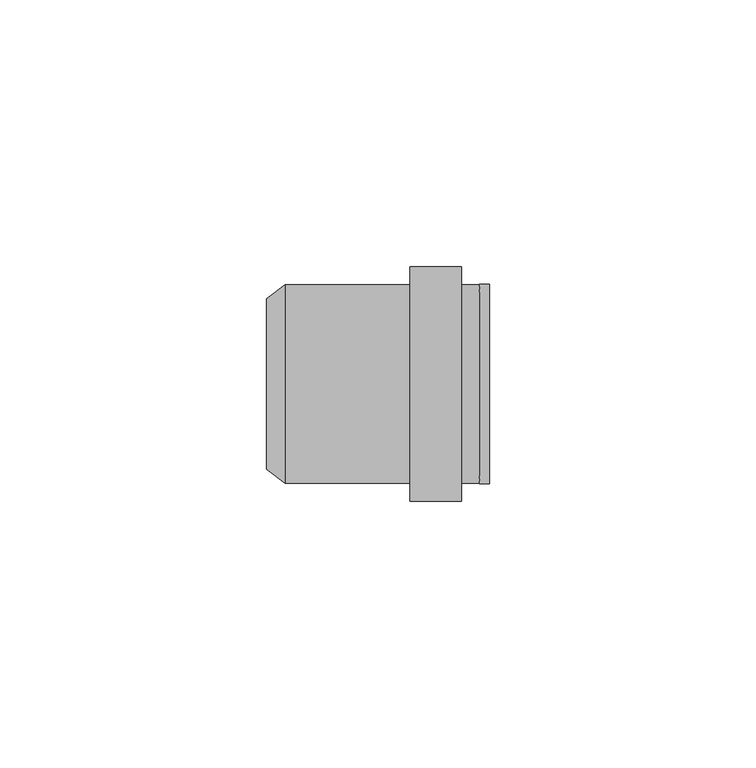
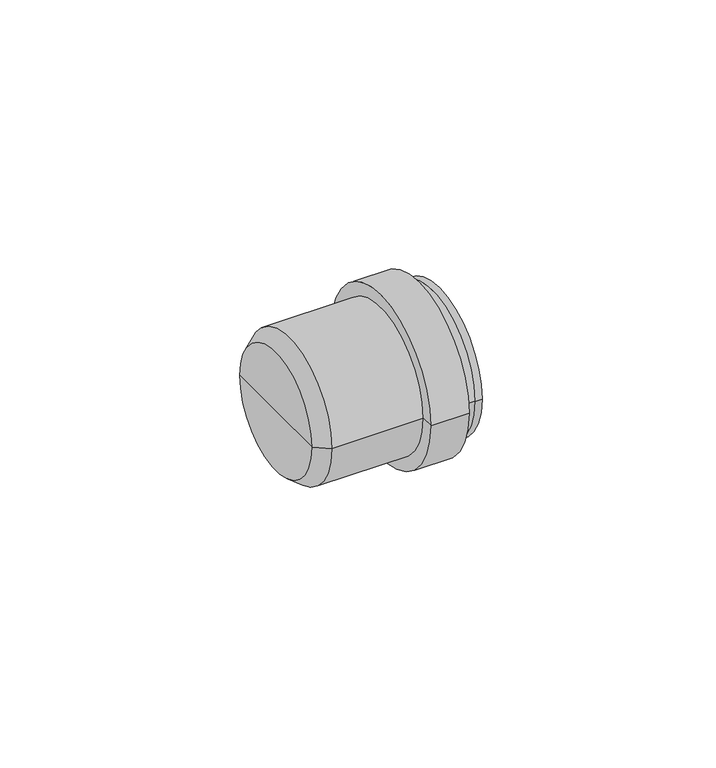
"""IFC4 building model written with IfcOpenShell, lengths in millimetres: pipe fitting geometry, pf_HTM_zatka : pf_HTM_zatka."""

from ifc_helpers import new_model, si_unit, frame, origin, place, context, project, spatial, polyline, circle_curve, source, transform, mapped, element, save
from ifc_brep_helpers import plane_surface, cylinder_surface, revolved_surface, advanced_brep


def pipe_fitting_0bfdb319(model_context):
    return source(origin(), model_context, "Body", "AdvancedBrep", [
        advanced_brep(
        [(-40.0, -16.0, 0.0), (-40.0, 16.0, 0.0), (-36.5, 18.6, 0.0), (-36.5, -18.6, 0.0), (-40.0, 0.0, 0.0), (0.0, -18.6, 0.0), (0.0, 18.6, 0.0), (0.0, 0.0, 0.0), (-3.4, -18.6, 0.0), (-3.4, 18.6, 0.0), (-3.4, -22.0, 0.0), (-3.4, 22.0, 0.0), (-13.1, -22.0, 0.0), (-13.1, 22.0, 0.0), (-13.1, -18.6, 0.0), (-13.1, 18.6, 0.0)],
        [
            (0, 1, circle_curve(frame((-40.0, 0.0, 0.0), z_axis=(1.0, 0.0, 0.0), x_axis=(0.0, 1.0, 0.0)), 16.0)),
            (1, 2),
            (2, 3, circle_curve(frame((-36.5, 0.0, 0.0), z_axis=(-1.0, 0.0, 0.0), x_axis=(0.0, 1.0, 0.0)), 18.6)),
            (3, 0),
            (1, 0, circle_curve(frame((-40.0, 0.0, 0.0), z_axis=(1.0, 0.0, 0.0), x_axis=(0.0, 1.0, 0.0)), 16.0)),
            (3, 2, circle_curve(frame((-36.5, 0.0, 0.0), z_axis=(-1.0, 0.0, 0.0), x_axis=(0.0, 1.0, 0.0)), 18.6)),
            (4, 1),
            (0, 4),
            (5, 6, circle_curve(frame((0.0, 0.0, 0.0), z_axis=(1.0, 0.0, 0.0), x_axis=(0.0, 1.0, 0.0)), 18.6)),
            (6, 7),
            (7, 5),
            (6, 5, circle_curve(frame((0.0, 0.0, 0.0), z_axis=(1.0, 0.0, 0.0), x_axis=(0.0, 1.0, 0.0)), 18.6)),
            (8, 9, circle_curve(frame((-3.4, 0.0, 0.0), z_axis=(1.0, 0.0, 0.0), x_axis=(0.0, 1.0, 0.0)), 18.6)),
            (9, 6),
            (5, 8),
            (9, 8, circle_curve(frame((-3.4, 0.0, 0.0), z_axis=(1.0, 0.0, 0.0), x_axis=(0.0, 1.0, 0.0)), 18.6)),
            (10, 11, circle_curve(frame((-3.4, 0.0, 0.0), z_axis=(1.0, 0.0, 0.0), x_axis=(0.0, 1.0, 0.0)), 22.0)),
            (11, 9),
            (8, 10),
            (11, 10, circle_curve(frame((-3.4, 0.0, 0.0), z_axis=(1.0, 0.0, 0.0), x_axis=(0.0, 1.0, 0.0)), 22.0)),
            (12, 13, circle_curve(frame((-13.1, 0.0, 0.0), z_axis=(1.0, 0.0, 0.0), x_axis=(0.0, 1.0, 0.0)), 22.0)),
            (13, 11),
            (10, 12),
            (13, 12, circle_curve(frame((-13.1, 0.0, 0.0), z_axis=(1.0, 0.0, 0.0), x_axis=(0.0, 1.0, 0.0)), 22.0)),
            (14, 15, circle_curve(frame((-13.1, 0.0, 0.0), z_axis=(1.0, 0.0, 0.0), x_axis=(0.0, 1.0, 0.0)), 18.6)),
            (15, 13),
            (12, 14),
            (15, 14, circle_curve(frame((-13.1, 0.0, 0.0), z_axis=(1.0, 0.0, 0.0), x_axis=(0.0, 1.0, 0.0)), 18.6)),
            (2, 15),
            (14, 3),
        ],
        [
            revolved_surface(polyline([(-36.5, 18.6, 0.0), (-40.0, 16.0, 0.0)]), (-40.0, 0.0, 0.0), (-1.0, 0.0, 0.0)),
            plane_surface(frame((-40.0, 0.0, 0.0), z_axis=(-1.0, 0.0, 0.0), x_axis=(0.0, 1.0, 0.0))),
            plane_surface(frame((0.0, 0.0, 0.0), z_axis=(1.0, 0.0, 0.0), x_axis=(0.0, 1.0, 0.0))),
            cylinder_surface(frame((-40.0, 0.0, 0.0), z_axis=(-1.0, 0.0, 0.0), x_axis=(0.0, 1.0, 0.0)), 18.6),
            plane_surface(frame((-3.4, 0.0, 0.0), z_axis=(1.0, 0.0, 0.0), x_axis=(0.0, 1.0, 0.0))),
            cylinder_surface(frame((-40.0, 0.0, 0.0), z_axis=(-1.0, 0.0, 0.0), x_axis=(0.0, 1.0, 0.0)), 22.0),
            plane_surface(frame((-13.1, 0.0, 0.0), z_axis=(-1.0, 0.0, 0.0), x_axis=(0.0, 1.0, 0.0))),
        ],
        [
            (0, [[1, 2, 3, 4]]),
            (0, [[5, -4, 6, -2]]),
            (1, [[7, -1, 8]]),
            (1, [[-8, -5, -7]]),
            (2, [[9, 10, 11]]),
            (2, [[12, -11, -10]]),
            (3, [[13, 14, -9, 15]]),
            (3, [[16, -15, -12, -14]]),
            (4, [[17, 18, -13, 19]]),
            (4, [[20, -19, -16, -18]]),
            (5, [[21, 22, -17, 23]]),
            (5, [[24, -23, -20, -22]]),
            (6, [[25, 26, -21, 27]]),
            (6, [[28, -27, -24, -26]]),
            (3, [[-3, 29, -25, 30]]),
            (3, [[-6, -30, -28, -29]]),
        ],
    ),
        advanced_brep(
        [(-37.0, 0.0, 0.0), (-37.0, 16.0, 0.0), (-37.0, -16.0, 0.0), (1.8, -18.74, 0.0), (1.8, 18.74, 0.0), (1.8, 0.0, 0.0), (0.0, -18.74, 0.0), (0.0, 18.74, 0.0), (0.0, -16.94, 0.0), (0.0, 16.94, 0.0), (-33.0, -16.94, 0.0), (-33.0, 16.94, 0.0)],
        [
            (0, 1),
            (1, 2, circle_curve(frame((-37.0, 0.0, 0.0), z_axis=(-1.0, 0.0, 0.0), x_axis=(0.0, 1.0, 0.0)), 16.0)),
            (2, 0),
            (2, 1, circle_curve(frame((-37.0, 0.0, 0.0), z_axis=(-1.0, 0.0, 0.0), x_axis=(0.0, 1.0, 0.0)), 16.0)),
            (3, 4, circle_curve(frame((1.8, 0.0, 0.0), z_axis=(1.0, 0.0, 0.0), x_axis=(0.0, 1.0, 0.0)), 18.74)),
            (4, 5),
            (5, 3),
            (4, 3, circle_curve(frame((1.8, 0.0, 0.0), z_axis=(1.0, 0.0, 0.0), x_axis=(0.0, 1.0, 0.0)), 18.74)),
            (6, 7, circle_curve(frame((0.0, 0.0, 0.0), z_axis=(1.0, 0.0, 0.0), x_axis=(0.0, 1.0, 0.0)), 18.74)),
            (7, 4),
            (3, 6),
            (7, 6, circle_curve(frame((0.0, 0.0, 0.0), z_axis=(1.0, 0.0, 0.0), x_axis=(0.0, 1.0, 0.0)), 18.74)),
            (8, 9, circle_curve(frame((0.0, 0.0, 0.0), z_axis=(1.0, 0.0, 0.0), x_axis=(0.0, 1.0, 0.0)), 16.94)),
            (9, 7),
            (6, 8),
            (9, 8, circle_curve(frame((0.0, 0.0, 0.0), z_axis=(1.0, 0.0, 0.0), x_axis=(0.0, 1.0, 0.0)), 16.94)),
            (10, 11, circle_curve(frame((-33.0, 0.0, 0.0), z_axis=(1.0, 0.0, 0.0), x_axis=(0.0, 1.0, 0.0)), 16.94)),
            (11, 9),
            (8, 10),
            (11, 10, circle_curve(frame((-33.0, 0.0, 0.0), z_axis=(1.0, 0.0, 0.0), x_axis=(0.0, 1.0, 0.0)), 16.94)),
            (1, 11),
            (10, 2),
        ],
        [
            plane_surface(frame((-37.0, 0.0, 0.0), z_axis=(-1.0, 0.0, 0.0), x_axis=(0.0, 1.0, 0.0))),
            plane_surface(frame((1.8, 0.0, 0.0), z_axis=(1.0, 0.0, 0.0), x_axis=(0.0, 1.0, 0.0))),
            cylinder_surface(frame((-36.0241529, 0.0, 0.0), z_axis=(-1.0, 0.0, 0.0), x_axis=(0.0, 1.0, 0.0)), 18.74),
            plane_surface(frame((0.0, 0.0, 0.0), z_axis=(-1.0, 0.0, 0.0), x_axis=(0.0, 1.0, 0.0))),
            cylinder_surface(frame((-36.0241529, 0.0, 0.0), z_axis=(-1.0, 0.0, 0.0), x_axis=(0.0, 1.0, 0.0)), 16.94),
            revolved_surface(polyline([(-33.0, 16.94, 0.0), (-37.0, 16.0, 0.0)]), (-36.0241529, 0.0, 0.0), (-1.0, 0.0, 0.0)),
        ],
        [
            (0, [[1, 2, 3]]),
            (0, [[-3, 4, -1]]),
            (1, [[5, 6, 7]]),
            (1, [[8, -7, -6]]),
            (2, [[9, 10, -5, 11]]),
            (2, [[12, -11, -8, -10]]),
            (3, [[13, 14, -9, 15]]),
            (3, [[16, -15, -12, -14]]),
            (4, [[17, 18, -13, 19]]),
            (4, [[20, -19, -16, -18]]),
            (5, [[-2, 21, -17, 22]]),
            (5, [[-4, -22, -20, -21]]),
        ],
    ),
    ])


if __name__ == "__main__":
    model = new_model("IFC4")
    model_context = context("Model", 3, world=origin())
    ifc_project = project(units=[si_unit("LENGTHUNIT", "METRE", prefix="MILLI")], contexts=[model_context])
    site = spatial("IfcSite", under=ifc_project)
    building = spatial("IfcBuilding", under=site)
    placement = place(None, origin())
    pipe_fitting_shape = pipe_fitting_0bfdb319(model_context)
    element("IfcPipeFitting", 1, ObjectType="pf_HTM_zatka : pf_HTM_zatka", at=placement, inside=building, context=model_context, shape_type="MappedRepresentation", body=[
        mapped(pipe_fitting_shape, transform((0.0, 0.0, 0.0), x_axis=(1.0, 0.0, 0.0), y_axis=(0.0, 1.0, 0.0), z_axis=(0.0, 0.0, 1.0))),
    ])
    save(model, "model.ifc")
